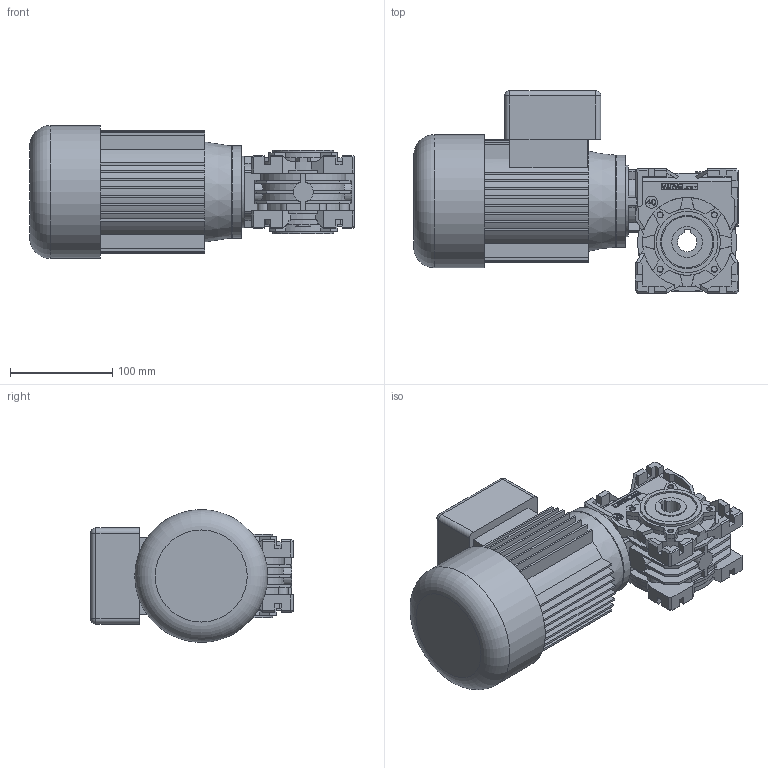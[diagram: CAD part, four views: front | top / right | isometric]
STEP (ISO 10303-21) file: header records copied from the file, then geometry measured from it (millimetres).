
FILE_DESCRIPTION( ( 'Unknown' ), '1' );
FILE_NAME( 'E:/services/configuratordownloads/customers/VARVEL/RT/download/63ACE11F5E43FC3CE48A342AA1EEAF4/STEP/63ACE11F5E43FC3CE48A342AA1EEAF4.3d.stp', 'Unknown', ( 'Unknown' ), ( 'Unknown' ), 'PSStep 10.1', 'Unknown', ' ' );
FILE_SCHEMA( ( 'AUTOMOTIVE_DESIGN { 1 0 10303 214 1 1 1 1 }' ) );
Length unit declared in the file: millimetre
Products named in the file (1): 531101
Bounding box: 317.5 x 198 x 130 mm (x, y, z)
Volume: 3031041.6 mm3; surface area: 314050.8 mm2
Topology: 1 solids, 4 shells, 1039 faces, 2836 edges, 1867 vertices
Faces by surface type: plane 809, cylinder 188, cone 36, sphere 4, torus 2
Full cylindrical faces by diameter (mm): 4.2 x8, 5.25 x4, 5.6 x4, 6 x12, 11 x1, 12 x1, 15 x1, 16 x2, 20 x1, 30 x3, 42 x2, 45 x1, 50.1 x4, 51 x1, 52 x3, 55 x2, 55.4 x1, 59 x1, 60 x3, 70 x1, 75 x1, 90 x1, 130 x1
Entity records: 40489 total; most frequent: CARTESIAN_POINT 6065, ORIENTED_EDGE 5440, DIRECTION 5244, EDGE_CURVE 2720, LINE 2108, VECTOR 2108, VERTEX_POINT 1832, AXIS2_PLACEMENT_3D 1568
